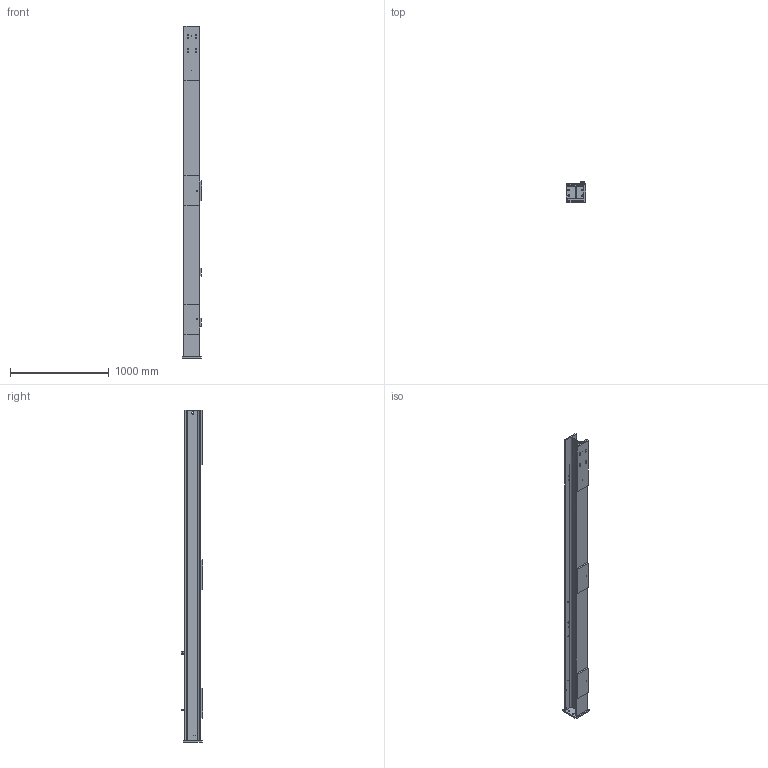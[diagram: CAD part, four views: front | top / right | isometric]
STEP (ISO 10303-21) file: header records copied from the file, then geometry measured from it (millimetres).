
FILE_DESCRIPTION(/* description */ ('Steher'),/* implementation_level */ '2;1');
FILE_NAME(/* name */ '00054978.stp',/* time_stamp */ '2023-08-08T14:38:29+02:00',/* author */ ('MD18'),/* organization */ (''),/* preprocessor_version */ 'ST-DEVELOPER v19.2',/* originating_system */ 'Autodesk Inventor 2023',/* authorisation */ '');
FILE_SCHEMA (('AUTOMOTIVE_DESIGN { 1 0 10303 214 3 1 1 }'));
Length unit declared in the file: millimetre
Products named in the file (10): 00054978; 00054978-S06; 00054978-S02; 00054978-S07; 00054978-S03; 00054978-S04; 00054978-S05; 00054978-S01; 00054978-S07_1; 00054978-S08
Assembly tree (10 placements, depth 2):
  00054978
    00054978-S06
    00054978-S02
    00054978-S07
    00054978-S03
    00054978-S04
    00054978-S05  x2
    00054978-S01
    00054978-S07_1
    00054978-S08
Bounding box: 195 x 215 x 3356 mm (x, y, z)
Volume: 22497912.2 mm3; surface area: 3693858.9 mm2
Topology: 10 solids, 10 shells, 145 faces, 363 edges, 238 vertices
Faces by surface type: plane 72, cylinder 61, cone 12
Full cylindrical faces by diameter (mm): 4.134 x6, 4.917 x4, 6.647 x4, 8.376 x9, 10.106 x24, 17.5 x4, 24 x1, 30 x1
Entity records: 4820 total; most frequent: DIRECTION 799, CARTESIAN_POINT 738, ORIENTED_EDGE 698, EDGE_CURVE 349, AXIS2_PLACEMENT_3D 291, EDGE_LOOP 247, VERTEX_POINT 230, LINE 217
